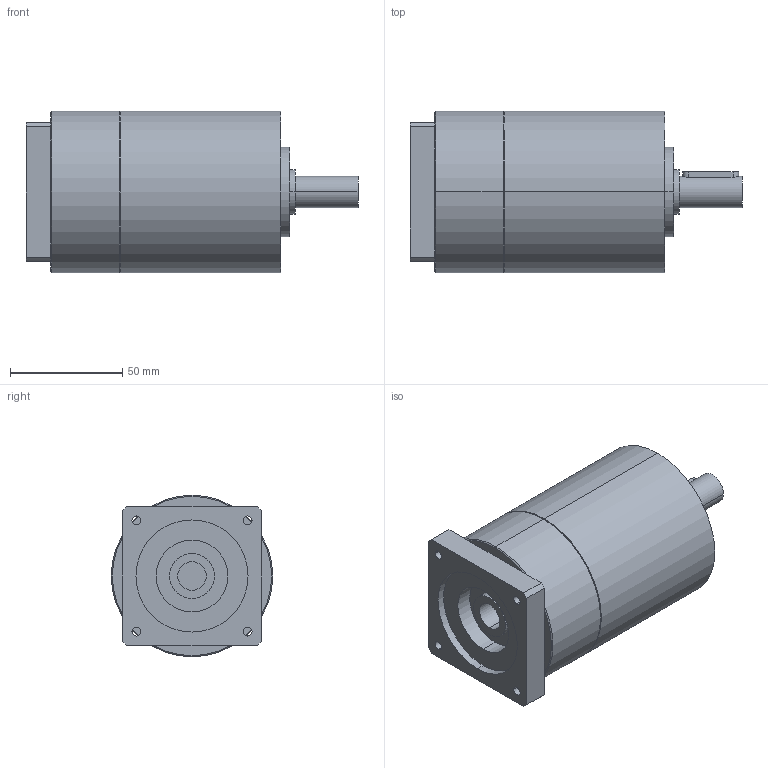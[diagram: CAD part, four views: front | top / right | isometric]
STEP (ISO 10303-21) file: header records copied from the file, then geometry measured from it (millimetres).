
FILE_DESCRIPTION(('CoCreate Modeling STEP Export'),'2;1');
FILE_NAME('GPT75_ig-9-12-16-20-25-28-35-40-50-70-100_14_B14T_12.7_P31.stp','2014-08-27T13:15:51',(''),(''),'CoCreate Modeling STEP processor for AP214 (Solid Model)','CoCreate Modeling 16.00C 25-Feb-2009 (C) Parametric Technology GmbH','');
FILE_SCHEMA(('AUTOMOTIVE_DESIGN { 1 0 10303 214 1 1 1 1 }'));
Length unit declared in the file: millimetre
Products named in the file (2): GPT75_ig-9-12-16-20-25-28-35-40-50-70-100_14_B14T_12.7_P31
Assembly tree (1 placements, depth 2):
  GPT75_ig-9-12-16-20-25-28-35-40-50-70-100_14_B14T_12.7_P31
    GPT75_ig-9-12-16-20-25-28-35-40-50-70-100_14_B14T_12.7_P31
Bounding box: 148 x 72 x 72 mm (x, y, z)
Volume: 452423.7 mm3; surface area: 40851.6 mm2
Topology: 1 solids, 1 shells, 80 faces, 198 edges, 129 vertices
Faces by surface type: cylinder 42, plane 34, cone 4
Entity records: 2353 total; most frequent: CARTESIAN_POINT 689, ORIENTED_EDGE 396, DIRECTION 276, EDGE_CURVE 198, VERTEX_POINT 129, AXIS2_PLACEMENT_3D 104, EDGE_LOOP 97, FACE_OUTER_BOUND 80
